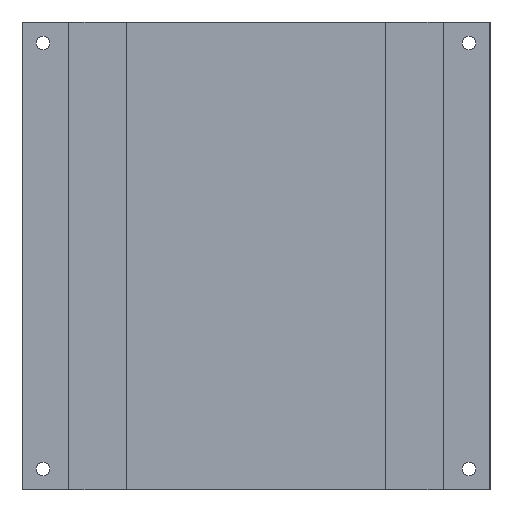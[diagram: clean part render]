
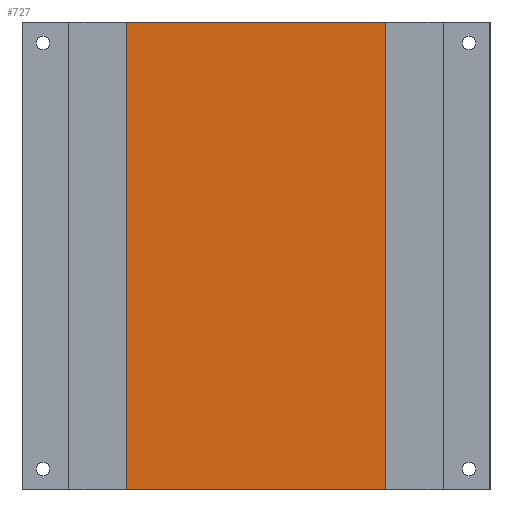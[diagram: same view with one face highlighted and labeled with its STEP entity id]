
A CAD part, front view. The second image highlights one B-rep face of the part: STEP entity #727.
In plain terms, the highlighted planar face has unit normal (0, -1, 0).
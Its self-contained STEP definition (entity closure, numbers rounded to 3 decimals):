
#17 = CARTESIAN_POINT ( 'NONE',  ( -40.2, -14., -72.5 ) ) ;
#36 = CARTESIAN_POINT ( 'NONE',  ( 40.2, -14., 72.5 ) ) ;
#158 = LINE ( 'NONE', #159, #160 ) ;
#159 = CARTESIAN_POINT ( 'NONE',  ( 40.2, -14., 72.5 ) ) ;
#160 = VECTOR ( 'NONE', #161, 1000. ) ;
#161 = DIRECTION ( 'NONE',  ( 0., 0., -1. ) ) ;
#232 = CARTESIAN_POINT ( 'NONE',  ( 40.2, -14., -72.5 ) ) ;
#280 = LINE ( 'NONE', #281, #282 ) ;
#281 = CARTESIAN_POINT ( 'NONE',  ( 40.2, -14., -72.5 ) ) ;
#282 = VECTOR ( 'NONE', #283, 1000. ) ;
#283 = DIRECTION ( 'NONE',  ( -1., 0., 0. ) ) ;
#455 = ORIENTED_EDGE ( 'NONE', *, *, #1843, .T. ) ;
#489 = ORIENTED_EDGE ( 'NONE', *, *, #1652, .F. ) ;
#532 = VERTEX_POINT ( 'NONE', #232 ) ;
#560 = EDGE_CURVE ( 'NONE', #532, #1907, #280, .T. ) ;
#616 = ORIENTED_EDGE ( 'NONE', *, *, #560, .F. ) ;
#696 = EDGE_LOOP ( 'NONE', ( #616, #489, #899, #455 ) ) ;
#703 = EDGE_CURVE ( 'NONE', #1427, #1829, #1303, .T. ) ;
#727 = ADVANCED_FACE ( 'NONE', ( #1404 ), #1408, .T. ) ;
#899 = ORIENTED_EDGE ( 'NONE', *, *, #703, .T. ) ;
#1154 = CARTESIAN_POINT ( 'NONE',  ( -40.2, -14., 72.5 ) ) ;
#1278 = LINE ( 'NONE', #1279, #1280 ) ;
#1279 = CARTESIAN_POINT ( 'NONE',  ( -40.2, -14., 72.5 ) ) ;
#1280 = VECTOR ( 'NONE', #1281, 1000. ) ;
#1281 = DIRECTION ( 'NONE',  ( 0., 0., -1. ) ) ;
#1303 = LINE ( 'NONE', #1304, #1305 ) ;
#1304 = CARTESIAN_POINT ( 'NONE',  ( 40.2, -14., 72.5 ) ) ;
#1305 = VECTOR ( 'NONE', #1306, 1000. ) ;
#1306 = DIRECTION ( 'NONE',  ( -1., 0., 0. ) ) ;
#1404 = FACE_OUTER_BOUND ( 'NONE', #696, .T. ) ;
#1408 = PLANE ( 'NONE',  #1409 ) ;
#1409 = AXIS2_PLACEMENT_3D ( 'NONE', #1410, #1411, #1412 ) ;
#1410 = CARTESIAN_POINT ( 'NONE',  ( 40.2, -14., 72.5 ) ) ;
#1411 = DIRECTION ( 'NONE',  ( 0., -1., 0. ) ) ;
#1412 = DIRECTION ( 'NONE',  ( 1., 0., 0. ) ) ;
#1427 = VERTEX_POINT ( 'NONE', #36 ) ;
#1652 = EDGE_CURVE ( 'NONE', #1427, #532, #158, .T. ) ;
#1829 = VERTEX_POINT ( 'NONE', #1154 ) ;
#1843 = EDGE_CURVE ( 'NONE', #1829, #1907, #1278, .T. ) ;
#1907 = VERTEX_POINT ( 'NONE', #17 ) ;
